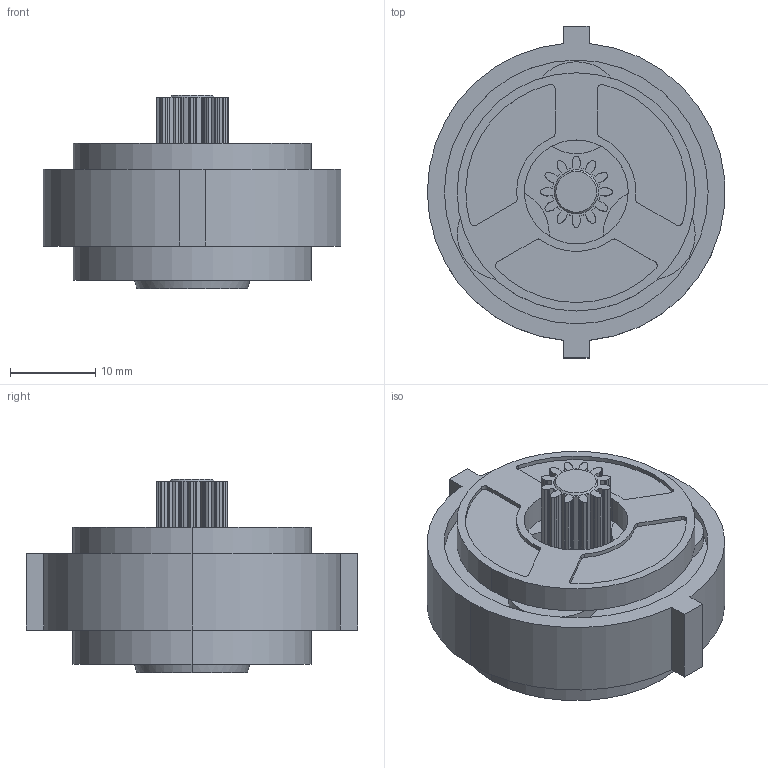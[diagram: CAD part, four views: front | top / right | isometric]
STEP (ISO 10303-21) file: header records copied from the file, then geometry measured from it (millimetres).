
FILE_DESCRIPTION (( 'STEP AP203' ), '1' );
FILE_NAME ('LGU35-4SYS.step', '2021-07-23T02:23:10', ( '' ), ( '' ), 'SwSTEP 2.0', 'SolidWorks 2021', '' );
FILE_SCHEMA (( 'CONFIG_CONTROL_DESIGN' ));
Length unit declared in the file: millimetre
Products named in the file (1): LGU35-4SYS
Bounding box: 34.93 x 39 x 22.7 mm (x, y, z)
Volume: 11027.3 mm3; surface area: 7307.5 mm2
Topology: 1 solids, 1 shells, 411 faces, 1173 edges, 782 vertices
Faces by surface type: cylinder 312, plane 89, bspline 6, cone 4
Entity records: 13956 total; most frequent: DIRECTION 2599, CARTESIAN_POINT 2565, ORIENTED_EDGE 2346, EDGE_CURVE 1173, AXIS2_PLACEMENT_3D 1044, VERTEX_POINT 782, CIRCLE 638, VECTOR 511
